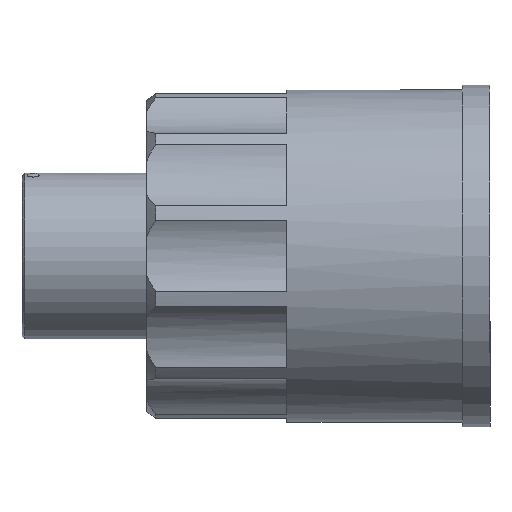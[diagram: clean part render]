
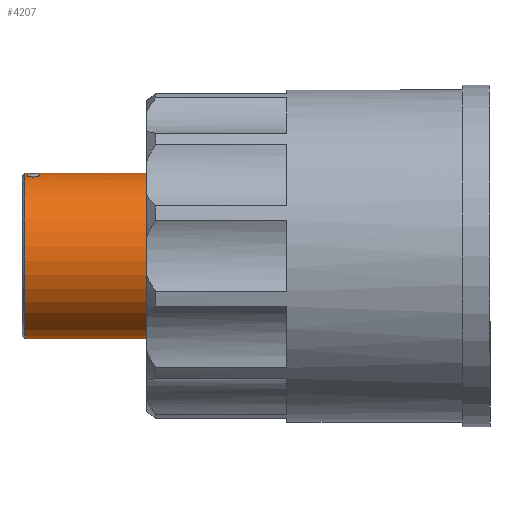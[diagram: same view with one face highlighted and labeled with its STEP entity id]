
A CAD part, front view. The second image highlights one B-rep face of the part: STEP entity #4207.
In plain terms, the highlighted cylindrical face has radius 9 mm (diameter 18 mm), a full revolution.
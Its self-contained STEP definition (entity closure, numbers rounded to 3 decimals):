
#236 = AXIS2_PLACEMENT_3D ( 'NONE', #1810, #1797, #1795 ) ;
#883 = B_SPLINE_CURVE_WITH_KNOTS ( 'NONE', 3,
 ( #8402, #8416, #8368, #8365, #8356, #8353, #8346, #8341, #8339, #8331, #8329, #8319, #8310, #8306, #8300, #8298, #8288, #8280, #8274, #8267, #8265, #8247, #8243, #8237, #8231, #8221 ),
 .UNSPECIFIED., .T., .F.,
 ( 4, 2, 2, 2, 2, 2, 2, 2, 2, 2, 2, 2, 4 ),
 ( 0., 0.001, 0.001, 0.001, 0.001, 0.002, 0.002, 0.003, 0.003, 0.003, 0.003, 0.004, 0.004 ),
 .UNSPECIFIED. ) ;
#942 = VERTEX_POINT ( 'NONE', #5860 ) ;
#1374 = DIRECTION ( 'NONE',  ( 1., 0., 0. ) ) ;
#1406 = CARTESIAN_POINT ( 'NONE',  ( -30.2, 0., 0. ) ) ;
#1466 = AXIS2_PLACEMENT_3D ( 'NONE', #8397, #8389, #8387 ) ;
#1538 = DIRECTION ( 'NONE',  ( 0., 0.972, 0.234 ) ) ;
#1606 = B_SPLINE_CURVE_WITH_KNOTS ( 'NONE', 3,
 ( #2233, #2123, #2092, #2080, #2067, #2060, #2053, #2050, #2035, #2016, #2013, #1981, #1966, #1963, #1946, #1913, #1909, #1898, #1894, #1878, #1876, #1869, #1863, #1848, #1846, #1839 ),
 .UNSPECIFIED., .T., .F.,
 ( 4, 2, 2, 2, 2, 2, 2, 2, 2, 2, 2, 2, 4 ),
 ( 0., 0.001, 0.001, 0.001, 0.001, 0.002, 0.002, 0.003, 0.003, 0.003, 0.003, 0.004, 0.004 ),
 .UNSPECIFIED. ) ;
#1795 = DIRECTION ( 'NONE',  ( 0., 0.972, 0.234 ) ) ;
#1797 = DIRECTION ( 'NONE',  ( 1., 0., 0. ) ) ;
#1810 = CARTESIAN_POINT ( 'NONE',  ( -50.4, 0., 0. ) ) ;
#1839 = CARTESIAN_POINT ( 'NONE',  ( -50.154, -2.109, 8.749 ) ) ;
#1846 = CARTESIAN_POINT ( 'NONE',  ( -50.154, -2.284, 8.707 ) ) ;
#1848 = CARTESIAN_POINT ( 'NONE',  ( -50.089, -2.456, 8.659 ) ) ;
#1863 = CARTESIAN_POINT ( 'NONE',  ( -49.912, -2.648, 8.602 ) ) ;
#1869 = CARTESIAN_POINT ( 'NONE',  ( -49.839, -2.7, 8.585 ) ) ;
#1876 = CARTESIAN_POINT ( 'NONE',  ( -49.676, -2.773, 8.562 ) ) ;
#1878 = CARTESIAN_POINT ( 'NONE',  ( -49.587, -2.791, 8.556 ) ) ;
#1894 = CARTESIAN_POINT ( 'NONE',  ( -49.409, -2.791, 8.556 ) ) ;
#1898 = CARTESIAN_POINT ( 'NONE',  ( -49.319, -2.771, 8.563 ) ) ;
#1909 = CARTESIAN_POINT ( 'NONE',  ( -49.159, -2.699, 8.586 ) ) ;
#1913 = CARTESIAN_POINT ( 'NONE',  ( -49.086, -2.646, 8.603 ) ) ;
#1946 = CARTESIAN_POINT ( 'NONE',  ( -48.91, -2.454, 8.66 ) ) ;
#1963 = CARTESIAN_POINT ( 'NONE',  ( -48.846, -2.281, 8.708 ) ) ;
#1966 = CARTESIAN_POINT ( 'NONE',  ( -48.846, -1.935, 8.791 ) ) ;
#1981 = CARTESIAN_POINT ( 'NONE',  ( -48.91, -1.76, 8.827 ) ) ;
#2013 = CARTESIAN_POINT ( 'NONE',  ( -49.089, -1.561, 8.864 ) ) ;
#2016 = CARTESIAN_POINT ( 'NONE',  ( -49.161, -1.507, 8.873 ) ) ;
#2035 = CARTESIAN_POINT ( 'NONE',  ( -49.323, -1.433, 8.885 ) ) ;
#2050 = CARTESIAN_POINT ( 'NONE',  ( -49.413, -1.413, 8.888 ) ) ;
#2053 = CARTESIAN_POINT ( 'NONE',  ( -49.59, -1.413, 8.888 ) ) ;
#2060 = CARTESIAN_POINT ( 'NONE',  ( -49.68, -1.434, 8.885 ) ) ;
#2067 = CARTESIAN_POINT ( 'NONE',  ( -49.841, -1.509, 8.873 ) ) ;
#2080 = CARTESIAN_POINT ( 'NONE',  ( -49.913, -1.563, 8.864 ) ) ;
#2092 = CARTESIAN_POINT ( 'NONE',  ( -50.091, -1.761, 8.827 ) ) ;
#2123 = CARTESIAN_POINT ( 'NONE',  ( -50.154, -1.934, 8.792 ) ) ;
#2233 = CARTESIAN_POINT ( 'NONE',  ( -50.154, -2.109, 8.749 ) ) ;
#2887 = VERTEX_POINT ( 'NONE', #5863 ) ;
#3907 = AXIS2_PLACEMENT_3D ( 'NONE', #1406, #1374, #1538 ) ;
#4207 = ADVANCED_FACE ( 'NONE', ( #8621, #8457, #9360, #8530 ), #7515, .T. ) ;
#4975 = VERTEX_POINT ( 'NONE', #5784 ) ;
#5784 = CARTESIAN_POINT ( 'NONE',  ( -50.154, 2.109, -8.749 ) ) ;
#5790 = CARTESIAN_POINT ( 'NONE',  ( -35.9, 8.749, 2.109 ) ) ;
#5860 = CARTESIAN_POINT ( 'NONE',  ( -50.4, 8.749, 2.109 ) ) ;
#5863 = CARTESIAN_POINT ( 'NONE',  ( -50.154, -2.109, 8.749 ) ) ;
#6435 = CIRCLE ( 'NONE', #1466, 9. ) ;
#6794 = VERTEX_POINT ( 'NONE', #5790 ) ;
#7165 = EDGE_CURVE ( 'NONE', #2887, #2887, #1606, .T. ) ;
#7166 = EDGE_CURVE ( 'NONE', #942, #942, #7834, .T. ) ;
#7515 = CYLINDRICAL_SURFACE ( 'NONE', #3907, 9. ) ;
#7602 = EDGE_LOOP ( 'NONE', ( #8633 ) ) ;
#7617 = EDGE_LOOP ( 'NONE', ( #8658 ) ) ;
#7730 = EDGE_LOOP ( 'NONE', ( #8626 ) ) ;
#7756 = EDGE_LOOP ( 'NONE', ( #8613 ) ) ;
#7834 = CIRCLE ( 'NONE', #236, 9. ) ;
#7924 = EDGE_CURVE ( 'NONE', #6794, #6794, #6435, .T. ) ;
#7940 = EDGE_CURVE ( 'NONE', #4975, #4975, #883, .T. ) ;
#8221 = CARTESIAN_POINT ( 'NONE',  ( -50.154, 2.109, -8.749 ) ) ;
#8231 = CARTESIAN_POINT ( 'NONE',  ( -50.154, 2.284, -8.707 ) ) ;
#8237 = CARTESIAN_POINT ( 'NONE',  ( -50.089, 2.456, -8.659 ) ) ;
#8243 = CARTESIAN_POINT ( 'NONE',  ( -49.912, 2.648, -8.602 ) ) ;
#8247 = CARTESIAN_POINT ( 'NONE',  ( -49.839, 2.7, -8.585 ) ) ;
#8265 = CARTESIAN_POINT ( 'NONE',  ( -49.676, 2.773, -8.562 ) ) ;
#8267 = CARTESIAN_POINT ( 'NONE',  ( -49.587, 2.791, -8.556 ) ) ;
#8274 = CARTESIAN_POINT ( 'NONE',  ( -49.409, 2.791, -8.556 ) ) ;
#8280 = CARTESIAN_POINT ( 'NONE',  ( -49.319, 2.771, -8.563 ) ) ;
#8288 = CARTESIAN_POINT ( 'NONE',  ( -49.159, 2.699, -8.586 ) ) ;
#8298 = CARTESIAN_POINT ( 'NONE',  ( -49.086, 2.646, -8.603 ) ) ;
#8300 = CARTESIAN_POINT ( 'NONE',  ( -48.91, 2.454, -8.66 ) ) ;
#8306 = CARTESIAN_POINT ( 'NONE',  ( -48.846, 2.281, -8.708 ) ) ;
#8310 = CARTESIAN_POINT ( 'NONE',  ( -48.846, 1.935, -8.791 ) ) ;
#8319 = CARTESIAN_POINT ( 'NONE',  ( -48.91, 1.76, -8.827 ) ) ;
#8329 = CARTESIAN_POINT ( 'NONE',  ( -49.089, 1.561, -8.864 ) ) ;
#8331 = CARTESIAN_POINT ( 'NONE',  ( -49.161, 1.507, -8.873 ) ) ;
#8339 = CARTESIAN_POINT ( 'NONE',  ( -49.323, 1.433, -8.885 ) ) ;
#8341 = CARTESIAN_POINT ( 'NONE',  ( -49.413, 1.413, -8.888 ) ) ;
#8346 = CARTESIAN_POINT ( 'NONE',  ( -49.59, 1.413, -8.888 ) ) ;
#8353 = CARTESIAN_POINT ( 'NONE',  ( -49.68, 1.434, -8.885 ) ) ;
#8356 = CARTESIAN_POINT ( 'NONE',  ( -49.841, 1.509, -8.873 ) ) ;
#8365 = CARTESIAN_POINT ( 'NONE',  ( -49.913, 1.563, -8.864 ) ) ;
#8368 = CARTESIAN_POINT ( 'NONE',  ( -50.091, 1.761, -8.827 ) ) ;
#8387 = DIRECTION ( 'NONE',  ( 0., 0.972, 0.234 ) ) ;
#8389 = DIRECTION ( 'NONE',  ( -1., 0., 0. ) ) ;
#8397 = CARTESIAN_POINT ( 'NONE',  ( -35.9, 0., 0. ) ) ;
#8402 = CARTESIAN_POINT ( 'NONE',  ( -50.154, 2.109, -8.749 ) ) ;
#8416 = CARTESIAN_POINT ( 'NONE',  ( -50.154, 1.934, -8.792 ) ) ;
#8457 = FACE_BOUND ( 'NONE', #7602, .T. ) ;
#8530 = FACE_OUTER_BOUND ( 'NONE', #7756, .T. ) ;
#8613 = ORIENTED_EDGE ( 'NONE', *, *, #7166, .T. ) ;
#8621 = FACE_OUTER_BOUND ( 'NONE', #7617, .T. ) ;
#8626 = ORIENTED_EDGE ( 'NONE', *, *, #7165, .T. ) ;
#8633 = ORIENTED_EDGE ( 'NONE', *, *, #7940, .T. ) ;
#8658 = ORIENTED_EDGE ( 'NONE', *, *, #7924, .T. ) ;
#9360 = FACE_BOUND ( 'NONE', #7730, .T. ) ;
